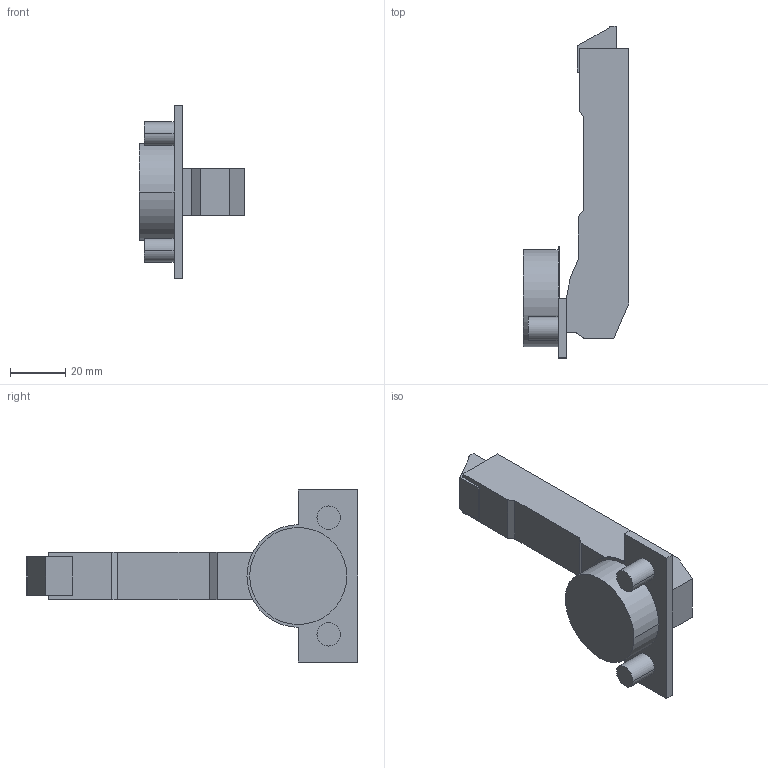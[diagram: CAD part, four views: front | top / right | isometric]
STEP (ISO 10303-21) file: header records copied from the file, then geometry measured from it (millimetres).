
FILE_DESCRIPTION (( 'STEP AP214' ), '1' );
FILE_NAME ('Scharnier T Click-on 110° +90° G_BB, einliegend_Dübel.step', '2010-12-13T10:22:50', ( 'grass' ), ( '' ), 'SwSTEP 2.0', 'SolidWorks 2010', '' );
FILE_SCHEMA (( 'AUTOMOTIVE_DESIGN' ));
Length unit declared in the file: millimetre
Products named in the file (1): Scharnier T Click-on 110° +90° G_BB, einliegend_Dübel
Bounding box: 38.15 x 119.6 x 62 mm (x, y, z)
Volume: 50342 mm3; surface area: 14206.1 mm2
Topology: 1 solids, 1 shells, 58 faces, 142 edges, 94 vertices
Faces by surface type: plane 40, cylinder 18
Entity records: 1740 total; most frequent: DIRECTION 296, CARTESIAN_POINT 295, ORIENTED_EDGE 284, EDGE_CURVE 142, LINE 106, VECTOR 106, AXIS2_PLACEMENT_3D 95, VERTEX_POINT 94
